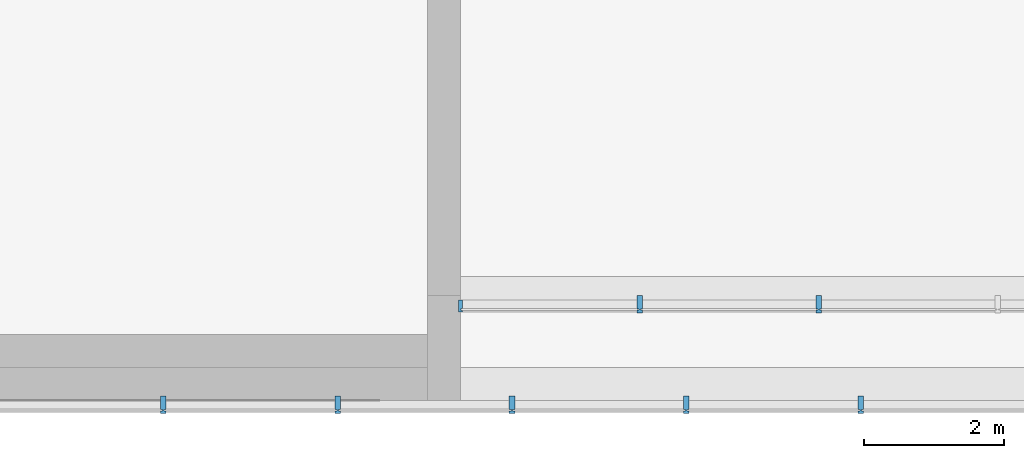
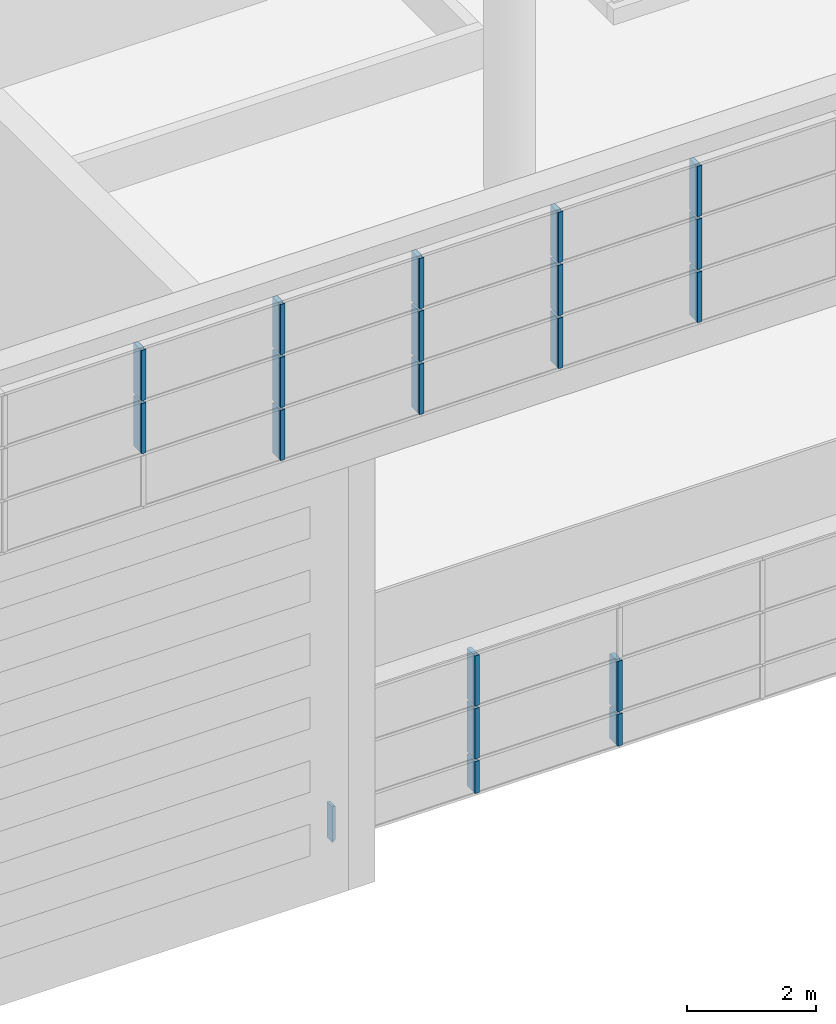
# One storey, part 75 of 105: 20 building element parts, 2 elements without a shape of their own.
"""IFC4 building model written with IfcOpenShell, lengths in millimetres."""

from ifc_helpers import new_model, entity, si_unit, converted_unit, derived_unit, direction, frame, origin_with_axes, place, context, subcontext, project, spatial, triangles, material, element, aggregate, save


model = new_model("IFC4")

# Units and contexts
model_context = context("Model", 3, precision=1e-05, world=origin_with_axes(), true_north=direction((0.0, 1.0)))
body_context = subcontext(model_context, "Body", "Model", "MODEL_VIEW")
ifc_project = project(units=[si_unit("LENGTHUNIT", "METRE", prefix="MILLI"), si_unit("AREAUNIT", "SQUARE_METRE"), si_unit("VOLUMEUNIT", "CUBIC_METRE"), converted_unit("PLANEANGLEUNIT", "DEGREE", entity("IfcLengthMeasure", 0.017453), si_unit("PLANEANGLEUNIT", "RADIAN"), dimensions=[0, 0, 0, 0, 0, 0, 0]), si_unit("SOLIDANGLEUNIT", "STERADIAN"), si_unit("MASSUNIT", "GRAM"), si_unit("TIMEUNIT", "SECOND"), si_unit("THERMODYNAMICTEMPERATUREUNIT", "DEGREE_CELSIUS"), si_unit("LUMINOUSINTENSITYUNIT", "LUMEN"), si_unit("POWERUNIT", "WATT"), derived_unit("THERMALTRANSMITTANCEUNIT", [(si_unit("POWERUNIT", "WATT"), 1), (si_unit("THERMODYNAMICTEMPERATUREUNIT", "KELVIN"), -1), (si_unit("AREAUNIT", "SQUARE_METRE"), -1)])], contexts=[model_context])

# Site, building, storey
site_placement = place(None, origin_with_axes())
site = spatial("IfcSite", under=ifc_project, at=site_placement, Name="Default Site", CompositionType="ELEMENT")
building_placement = place(site_placement, origin_with_axes())
building = spatial("IfcBuilding", under=site, at=building_placement, Name="Default Building", CompositionType="ELEMENT")
storey_placement = place(building_placement, origin_with_axes())
storey = spatial("IfcBuildingStorey", under=building, at=storey_placement, Name="OG - Story", CompositionType="ELEMENT", Elevation=0.0)

# Curtain wall, building element parts
curtain_wall_1_placement = place(storey_placement, origin_with_axes())
curtain_wall_1 = element("IfcCurtainWall", 1, at=curtain_wall_1_placement, inside=storey, Name="Fassade-001", PredefinedType="NOTDEFINED")
ifc_material = material(Name="Blech")
building_element_part_1_placement = place(curtain_wall_1_placement, frame((52496.845873, -51289.262838, 0.0), z_axis=(0.0, 0.0, 1.0), x_axis=(1.0, 0.0, 0.0)))
building_element_part_1 = element("IfcBuildingElementPart", 2, at=building_element_part_1_placement, material=ifc_material, Name="Blech", PredefinedType="NOTDEFINED", context=body_context, shape_type="Tessellation", body=[
    triangles([(-1250.454, 15.0, 650.0), (-1250.454, 133.0, 650.0), (-1270.454, 15.0, 650.0), (-1300.454, 133.0, 650.0), (-1270.454, -14.999, 650.0), (-1300.454, -34.999, 650.0), (-1250.454, -34.999, 650.0), (-1250.454, -14.999, 650.0), (-1270.454, 15.0, 5.0), (-1250.454, 15.0, 25.0), (-1250.454, 133.0, 25.0), (-1300.454, 133.0, -24.999), (-1300.454, -34.999, -24.999), (-1250.454, -34.999, 25.0), (-1250.454, -14.999, 25.0), (-1270.454, -14.999, 5.0)], [[1, 2, 3], [3, 2, 4], [3, 4, 5], [5, 4, 6], [5, 6, 7], [5, 7, 8], [3, 9, 10], [3, 10, 1], [10, 11, 2], [10, 2, 1], [2, 11, 12], [2, 12, 4], [4, 12, 13], [4, 13, 6], [6, 13, 14], [6, 14, 7], [8, 7, 14], [8, 14, 15], [15, 16, 5], [15, 5, 8], [5, 16, 9], [5, 9, 3], [10, 11, 9], [9, 11, 12], [9, 12, 16], [16, 12, 13], [16, 13, 15], [15, 13, 14]], closed=False),
])
building_element_part_2_placement = place(curtain_wall_1_placement, frame((52496.845873, -51289.262838, 0.0), z_axis=(0.0, 0.0, 1.0), x_axis=(1.0, 0.0, 0.0)))
building_element_part_2 = element("IfcBuildingElementPart", 3, at=building_element_part_2_placement, material=ifc_material, Name="Blech", PredefinedType="NOTDEFINED", context=body_context, shape_type="Tessellation", body=[
    triangles([(1315.455, 10.0, 625.0), (1315.455, 200.0, 625.0), (1285.455, 10.0, 625.0), (1265.455, 10.0, 625.0), (1285.455, -9.999, 625.0), (1315.455, -49.999, 625.0), (1315.455, -9.999, 625.0), (1235.455, 200.0, 625.0), (1235.455, 10.0, 625.0), (1265.455, -9.999, 625.0), (1235.455, -9.999, 625.0), (1235.455, -49.999, 625.0), (1285.455, 10.0, 25.0), (1315.455, 10.0, 25.0), (1315.455, 200.0, 25.0), (1235.455, 200.0, 25.0), (1235.455, 10.0, 25.0), (1265.455, 10.0, 25.0), (1265.455, -9.999, 25.0), (1235.455, -9.999, 25.0), (1235.455, -49.999, 25.0), (1315.455, -49.999, 25.0), (1315.455, -9.999, 25.0), (1285.455, -9.999, 25.0)], [[1, 2, 3], [3, 2, 4], [3, 4, 5], [5, 4, 6], [5, 6, 7], [8, 9, 4], [8, 4, 2], [6, 4, 10], [6, 10, 11], [6, 11, 12], [1, 3, 13], [1, 13, 14], [1, 14, 15], [1, 15, 2], [2, 15, 16], [2, 16, 8], [9, 8, 16], [9, 16, 17], [9, 17, 18], [9, 18, 4], [4, 18, 19], [4, 19, 10], [11, 10, 19], [11, 19, 20], [20, 21, 12], [20, 12, 11], [12, 21, 22], [12, 22, 6], [23, 7, 6], [23, 6, 22], [5, 7, 23], [5, 23, 24], [3, 5, 24], [3, 24, 13], [23, 22, 24], [24, 22, 19], [24, 19, 13], [13, 19, 15], [13, 15, 14], [21, 20, 19], [21, 19, 22], [15, 19, 18], [15, 18, 17], [15, 17, 16]], closed=False),
])
building_element_part_3_placement = place(curtain_wall_1_placement, frame((52496.845873, -51289.262838, 0.0), z_axis=(0.0, 0.0, 1.0), x_axis=(1.0, 0.0, 0.0)))
building_element_part_3 = element("IfcBuildingElementPart", 4, at=building_element_part_3_placement, material=ifc_material, Name="Blech", PredefinedType="NOTDEFINED", context=body_context, shape_type="Tessellation", body=[
    triangles([(3866.364, 10.0, 625.0), (3866.364, 200.0, 625.0), (3836.364, 10.0, 625.0), (3816.364, 10.0, 625.0), (3836.364, -9.999, 625.0), (3866.364, -49.999, 625.0), (3866.364, -9.999, 625.0), (3786.364, 200.0, 625.0), (3786.364, 10.0, 625.0), (3816.364, -9.999, 625.0), (3786.364, -9.999, 625.0), (3786.364, -49.999, 625.0), (3836.364, 10.0, 25.0), (3866.364, 10.0, 25.0), (3866.364, 200.0, 25.0), (3786.364, 200.0, 25.0), (3786.364, 10.0, 25.0), (3816.364, 10.0, 25.0), (3816.364, -9.999, 25.0), (3786.364, -9.999, 25.0), (3786.364, -49.999, 25.0), (3866.364, -49.999, 25.0), (3866.364, -9.999, 25.0), (3836.364, -9.999, 25.0)], [[1, 2, 3], [3, 2, 4], [3, 4, 5], [5, 4, 6], [5, 6, 7], [8, 9, 4], [8, 4, 2], [6, 4, 10], [6, 10, 11], [6, 11, 12], [1, 3, 13], [1, 13, 14], [1, 14, 15], [1, 15, 2], [2, 15, 16], [2, 16, 8], [9, 8, 16], [9, 16, 17], [9, 17, 18], [9, 18, 4], [4, 18, 19], [4, 19, 10], [11, 10, 19], [11, 19, 20], [20, 21, 12], [20, 12, 11], [12, 21, 22], [12, 22, 6], [23, 7, 6], [23, 6, 22], [5, 7, 23], [5, 23, 24], [3, 5, 24], [3, 24, 13], [23, 22, 24], [24, 22, 19], [24, 19, 13], [13, 19, 15], [13, 15, 14], [21, 20, 19], [21, 19, 22], [15, 19, 18], [15, 18, 17], [15, 17, 16]], closed=False),
])
building_element_part_4_placement = place(curtain_wall_1_placement, frame((52496.845873, -51289.262838, 0.0), z_axis=(0.0, 0.0, 1.0), x_axis=(1.0, 0.0, 0.0)))
building_element_part_4 = element("IfcBuildingElementPart", 5, at=building_element_part_4_placement, material=ifc_material, Name="Blech", PredefinedType="NOTDEFINED", context=body_context, shape_type="Tessellation", body=[
    triangles([(1315.455, 10.0, 1625.0), (1315.455, 200.0, 1625.0), (1285.455, 10.0, 1625.0), (1265.455, 10.0, 1625.0), (1285.455, -9.999, 1625.0), (1315.455, -49.999, 1625.0), (1315.455, -9.999, 1625.0), (1235.455, 200.0, 1625.0), (1235.455, 10.0, 1625.0), (1265.455, -9.999, 1625.0), (1235.455, -9.999, 1625.0), (1235.455, -49.999, 1625.0), (1285.455, 10.0, 675.0), (1315.455, 10.0, 675.0), (1315.455, 200.0, 675.0), (1235.455, 200.0, 675.0), (1235.455, 10.0, 675.0), (1265.455, 10.0, 675.0), (1265.455, -9.999, 675.0), (1235.455, -9.999, 675.0), (1235.455, -49.999, 675.0), (1315.455, -49.999, 675.0), (1315.455, -9.999, 675.0), (1285.455, -9.999, 675.0)], [[1, 2, 3], [3, 2, 4], [3, 4, 5], [5, 4, 6], [5, 6, 7], [8, 9, 4], [8, 4, 2], [6, 4, 10], [6, 10, 11], [6, 11, 12], [1, 3, 13], [1, 13, 14], [1, 14, 15], [1, 15, 2], [2, 15, 16], [2, 16, 8], [9, 8, 16], [9, 16, 17], [9, 17, 18], [9, 18, 4], [4, 18, 19], [4, 19, 10], [11, 10, 19], [11, 19, 20], [20, 21, 12], [20, 12, 11], [12, 21, 22], [12, 22, 6], [23, 7, 6], [23, 6, 22], [5, 7, 23], [5, 23, 24], [3, 5, 24], [3, 24, 13], [23, 22, 24], [24, 22, 19], [24, 19, 13], [13, 19, 15], [13, 15, 14], [21, 20, 19], [21, 19, 22], [15, 19, 18], [15, 18, 17], [15, 17, 16]], closed=False),
])
building_element_part_5_placement = place(curtain_wall_1_placement, frame((52496.845873, -51289.262838, 0.0), z_axis=(0.0, 0.0, 1.0), x_axis=(1.0, 0.0, 0.0)))
building_element_part_5 = element("IfcBuildingElementPart", 6, at=building_element_part_5_placement, material=ifc_material, Name="Blech", PredefinedType="NOTDEFINED", context=body_context, shape_type="Tessellation", body=[
    triangles([(3866.364, 10.0, 1625.0), (3866.364, 200.0, 1625.0), (3836.364, 10.0, 1625.0), (3816.364, 10.0, 1625.0), (3836.364, -9.999, 1625.0), (3866.364, -49.999, 1625.0), (3866.364, -9.999, 1625.0), (3786.364, 200.0, 1625.0), (3786.364, 10.0, 1625.0), (3816.364, -9.999, 1625.0), (3786.364, -9.999, 1625.0), (3786.364, -49.999, 1625.0), (3836.364, 10.0, 675.0), (3866.364, 10.0, 675.0), (3866.364, 200.0, 675.0), (3786.364, 200.0, 675.0), (3786.364, 10.0, 675.0), (3816.364, 10.0, 675.0), (3816.364, -9.999, 675.0), (3786.364, -9.999, 675.0), (3786.364, -49.999, 675.0), (3866.364, -49.999, 675.0), (3866.364, -9.999, 675.0), (3836.364, -9.999, 675.0)], [[1, 2, 3], [3, 2, 4], [3, 4, 5], [5, 4, 6], [5, 6, 7], [8, 9, 4], [8, 4, 2], [6, 4, 10], [6, 10, 11], [6, 11, 12], [1, 3, 13], [1, 13, 14], [1, 14, 15], [1, 15, 2], [2, 15, 16], [2, 16, 8], [9, 8, 16], [9, 16, 17], [9, 17, 18], [9, 18, 4], [4, 18, 19], [4, 19, 10], [11, 10, 19], [11, 19, 20], [20, 21, 12], [20, 12, 11], [12, 21, 22], [12, 22, 6], [23, 7, 6], [23, 6, 22], [5, 7, 23], [5, 23, 24], [3, 5, 24], [3, 24, 13], [23, 22, 24], [24, 22, 19], [24, 19, 13], [13, 19, 15], [13, 15, 14], [21, 20, 19], [21, 19, 22], [15, 19, 18], [15, 18, 17], [15, 17, 16]], closed=False),
])
building_element_part_6_placement = place(curtain_wall_1_placement, frame((52496.845873, -51289.262838, 0.0), z_axis=(0.0, 0.0, 1.0), x_axis=(1.0, 0.0, 0.0)))
building_element_part_6 = element("IfcBuildingElementPart", 7, at=building_element_part_6_placement, material=ifc_material, Name="Blech", PredefinedType="NOTDEFINED", context=body_context, shape_type="Tessellation", body=[
    triangles([(1315.455, 10.0, 2625.0), (1315.455, 200.0, 2625.0), (1285.455, 10.0, 2625.0), (1265.455, 10.0, 2625.0), (1285.455, -9.999, 2625.0), (1315.455, -49.999, 2625.0), (1315.455, -9.999, 2625.0), (1235.455, 200.0, 2625.0), (1235.455, 10.0, 2625.0), (1265.455, -9.999, 2625.0), (1235.455, -9.999, 2625.0), (1235.455, -49.999, 2625.0), (1285.455, 10.0, 1675.0), (1315.455, 10.0, 1675.0), (1315.455, 200.0, 1675.0), (1235.455, 200.0, 1675.0), (1235.455, 10.0, 1675.0), (1265.455, 10.0, 1675.0), (1265.455, -9.999, 1675.0), (1235.455, -9.999, 1675.0), (1235.455, -49.999, 1675.0), (1315.455, -49.999, 1675.0), (1315.455, -9.999, 1675.0), (1285.455, -9.999, 1675.0)], [[1, 2, 3], [3, 2, 4], [3, 4, 5], [5, 4, 6], [5, 6, 7], [8, 9, 4], [8, 4, 2], [6, 4, 10], [6, 10, 11], [6, 11, 12], [1, 3, 13], [1, 13, 14], [1, 14, 15], [1, 15, 2], [2, 15, 16], [2, 16, 8], [9, 8, 16], [9, 16, 17], [9, 17, 18], [9, 18, 4], [4, 18, 19], [4, 19, 10], [11, 10, 19], [11, 19, 20], [20, 21, 12], [20, 12, 11], [12, 21, 22], [12, 22, 6], [23, 7, 6], [23, 6, 22], [5, 7, 23], [5, 23, 24], [3, 5, 24], [3, 24, 13], [23, 22, 24], [24, 22, 19], [24, 19, 13], [13, 19, 15], [13, 15, 14], [21, 20, 19], [21, 19, 22], [15, 19, 18], [15, 18, 17], [15, 17, 16]], closed=False),
])
aggregate(curtain_wall_1, [building_element_part_1, building_element_part_2, building_element_part_3, building_element_part_4, building_element_part_5, building_element_part_6])

curtain_wall_2_placement = place(storey_placement, origin_with_axes())
curtain_wall_2 = element("IfcCurtainWall", 8, at=curtain_wall_2_placement, inside=storey, Name="Fassade-002", PredefinedType="NOTDEFINED")
building_element_part_7_placement = place(curtain_wall_2_placement, frame((33339.077852, -52722.262838, 8660.317768), z_axis=(0.0, 0.0, 1.0), x_axis=(1.0, 0.0, 0.0)))
building_element_part_7 = element("IfcBuildingElementPart", 9, at=building_element_part_7_placement, material=ifc_material, Name="Blech", PredefinedType="NOTDEFINED", context=body_context, shape_type="Tessellation", body=[
    triangles([(18655.697, 10.0, 975.0), (18655.697, 200.0, 975.0), (18625.697, 10.0, 975.0), (18605.697, 10.0, 975.0), (18625.697, -9.999, 975.0), (18655.697, -49.999, 975.0), (18655.697, -9.999, 975.0), (18575.697, 200.0, 975.0), (18575.697, 10.0, 975.0), (18605.697, -9.999, 975.0), (18575.697, -9.999, 975.0), (18575.697, -49.999, 975.0), (18625.697, 10.0, 25.0), (18655.697, 10.0, 25.0), (18655.697, 200.0, 25.0), (18575.697, 200.0, 25.0), (18575.697, 10.0, 25.0), (18605.697, 10.0, 25.0), (18605.697, -9.999, 25.0), (18575.697, -9.999, 25.0), (18575.697, -49.999, 25.0), (18655.697, -49.999, 25.0), (18655.697, -9.999, 25.0), (18625.697, -9.999, 25.0)], [[1, 2, 3], [3, 2, 4], [3, 4, 5], [5, 4, 6], [5, 6, 7], [8, 9, 4], [8, 4, 2], [6, 4, 10], [6, 10, 11], [6, 11, 12], [1, 3, 13], [1, 13, 14], [1, 14, 15], [1, 15, 2], [2, 15, 16], [2, 16, 8], [9, 8, 16], [9, 16, 17], [9, 17, 18], [9, 18, 4], [4, 18, 19], [4, 19, 10], [11, 10, 19], [11, 19, 20], [20, 21, 12], [20, 12, 11], [12, 21, 22], [12, 22, 6], [23, 7, 6], [23, 6, 22], [5, 7, 23], [5, 23, 24], [3, 5, 24], [3, 24, 13], [23, 22, 24], [24, 22, 19], [24, 19, 13], [13, 19, 15], [13, 15, 14], [21, 20, 19], [21, 19, 22], [15, 19, 18], [15, 18, 17], [15, 17, 16]], closed=False),
])
building_element_part_8_placement = place(curtain_wall_2_placement, frame((33339.077852, -52722.262838, 8660.317768), z_axis=(0.0, 0.0, 1.0), x_axis=(1.0, 0.0, 0.0)))
building_element_part_8 = element("IfcBuildingElementPart", 10, at=building_element_part_8_placement, material=ifc_material, Name="Blech", PredefinedType="NOTDEFINED", context=body_context, shape_type="Tessellation", body=[
    triangles([(16173.604, 10.0, 975.0), (16173.604, 200.0, 975.0), (16143.604, 10.0, 975.0), (16123.604, 10.0, 975.0), (16143.604, -9.999, 975.0), (16173.604, -49.999, 975.0), (16173.604, -9.999, 975.0), (16093.604, 200.0, 975.0), (16093.604, 10.0, 975.0), (16123.604, -9.999, 975.0), (16093.604, -9.999, 975.0), (16093.604, -49.999, 975.0), (16143.604, 10.0, 25.0), (16173.604, 10.0, 25.0), (16173.604, 200.0, 25.0), (16093.604, 200.0, 25.0), (16093.604, 10.0, 25.0), (16123.604, 10.0, 25.0), (16123.604, -9.999, 25.0), (16093.604, -9.999, 25.0), (16093.604, -49.999, 25.0), (16173.604, -49.999, 25.0), (16173.604, -9.999, 25.0), (16143.604, -9.999, 25.0)], [[1, 2, 3], [3, 2, 4], [3, 4, 5], [5, 4, 6], [5, 6, 7], [8, 9, 4], [8, 4, 2], [6, 4, 10], [6, 10, 11], [6, 11, 12], [1, 3, 13], [1, 13, 14], [1, 14, 15], [1, 15, 2], [2, 15, 16], [2, 16, 8], [9, 8, 16], [9, 16, 17], [9, 17, 18], [9, 18, 4], [4, 18, 19], [4, 19, 10], [11, 10, 19], [11, 19, 20], [20, 21, 12], [20, 12, 11], [12, 21, 22], [12, 22, 6], [23, 7, 6], [23, 6, 22], [5, 7, 23], [5, 23, 24], [3, 5, 24], [3, 24, 13], [23, 22, 24], [24, 22, 19], [24, 19, 13], [13, 19, 15], [13, 15, 14], [21, 20, 19], [21, 19, 22], [15, 19, 18], [15, 18, 17], [15, 17, 16]], closed=False),
])
building_element_part_9_placement = place(curtain_wall_2_placement, frame((33339.077852, -52722.262838, 8660.317768), z_axis=(0.0, 0.0, 1.0), x_axis=(1.0, 0.0, 0.0)))
building_element_part_9 = element("IfcBuildingElementPart", 11, at=building_element_part_9_placement, material=ifc_material, Name="Blech", PredefinedType="NOTDEFINED", context=body_context, shape_type="Tessellation", body=[
    triangles([(13691.511, 10.0, 1975.0), (13691.511, 200.0, 1975.0), (13661.511, 10.0, 1975.0), (13641.511, 10.0, 1975.0), (13661.511, -9.999, 1975.0), (13691.511, -49.999, 1975.0), (13691.511, -9.999, 1975.0), (13611.511, 200.0, 1975.0), (13611.511, 10.0, 1975.0), (13641.511, -9.999, 1975.0), (13611.511, -9.999, 1975.0), (13611.511, -49.999, 1975.0), (13661.511, 10.0, 1025.0), (13691.511, 10.0, 1025.0), (13691.511, 200.0, 1025.0), (13611.511, 200.0, 1025.0), (13611.511, 10.0, 1025.0), (13641.511, 10.0, 1025.0), (13641.511, -9.999, 1025.0), (13611.511, -9.999, 1025.0), (13611.511, -49.999, 1025.0), (13691.511, -49.999, 1025.0), (13691.511, -9.999, 1025.0), (13661.511, -9.999, 1025.0)], [[1, 2, 3], [3, 2, 4], [3, 4, 5], [5, 4, 6], [5, 6, 7], [8, 9, 4], [8, 4, 2], [6, 4, 10], [6, 10, 11], [6, 11, 12], [1, 3, 13], [1, 13, 14], [1, 14, 15], [1, 15, 2], [2, 15, 16], [2, 16, 8], [9, 8, 16], [9, 16, 17], [9, 17, 18], [9, 18, 4], [4, 18, 19], [4, 19, 10], [11, 10, 19], [11, 19, 20], [20, 21, 12], [20, 12, 11], [12, 21, 22], [12, 22, 6], [23, 7, 6], [23, 6, 22], [5, 7, 23], [5, 23, 24], [3, 5, 24], [3, 24, 13], [23, 22, 24], [24, 22, 19], [24, 19, 13], [13, 19, 15], [13, 15, 14], [21, 20, 19], [21, 19, 22], [15, 19, 18], [15, 18, 17], [15, 17, 16]], closed=False),
])
building_element_part_10_placement = place(curtain_wall_2_placement, frame((33339.077852, -52722.262838, 8660.317768), z_axis=(0.0, 0.0, 1.0), x_axis=(1.0, 0.0, 0.0)))
building_element_part_10 = element("IfcBuildingElementPart", 12, at=building_element_part_10_placement, material=ifc_material, Name="Blech", PredefinedType="NOTDEFINED", context=body_context, shape_type="Tessellation", body=[
    triangles([(18655.697, 10.0, 1975.0), (18655.697, 200.0, 1975.0), (18625.697, 10.0, 1975.0), (18605.697, 10.0, 1975.0), (18625.697, -9.999, 1975.0), (18655.697, -49.999, 1975.0), (18655.697, -9.999, 1975.0), (18575.697, 200.0, 1975.0), (18575.697, 10.0, 1975.0), (18605.697, -9.999, 1975.0), (18575.697, -9.999, 1975.0), (18575.697, -49.999, 1975.0), (18625.697, 10.0, 1025.0), (18655.697, 10.0, 1025.0), (18655.697, 200.0, 1025.0), (18575.697, 200.0, 1025.0), (18575.697, 10.0, 1025.0), (18605.697, 10.0, 1025.0), (18605.697, -9.999, 1025.0), (18575.697, -9.999, 1025.0), (18575.697, -49.999, 1025.0), (18655.697, -49.999, 1025.0), (18655.697, -9.999, 1025.0), (18625.697, -9.999, 1025.0)], [[1, 2, 3], [3, 2, 4], [3, 4, 5], [5, 4, 6], [5, 6, 7], [8, 9, 4], [8, 4, 2], [6, 4, 10], [6, 10, 11], [6, 11, 12], [1, 3, 13], [1, 13, 14], [1, 14, 15], [1, 15, 2], [2, 15, 16], [2, 16, 8], [9, 8, 16], [9, 16, 17], [9, 17, 18], [9, 18, 4], [4, 18, 19], [4, 19, 10], [11, 10, 19], [11, 19, 20], [20, 21, 12], [20, 12, 11], [12, 21, 22], [12, 22, 6], [23, 7, 6], [23, 6, 22], [5, 7, 23], [5, 23, 24], [3, 5, 24], [3, 24, 13], [23, 22, 24], [24, 22, 19], [24, 19, 13], [13, 19, 15], [13, 15, 14], [21, 20, 19], [21, 19, 22], [15, 19, 18], [15, 18, 17], [15, 17, 16]], closed=False),
])
building_element_part_11_placement = place(curtain_wall_2_placement, frame((33339.077852, -52722.262838, 8660.317768), z_axis=(0.0, 0.0, 1.0), x_axis=(1.0, 0.0, 0.0)))
building_element_part_11 = element("IfcBuildingElementPart", 13, at=building_element_part_11_placement, material=ifc_material, Name="Blech", PredefinedType="NOTDEFINED", context=body_context, shape_type="Tessellation", body=[
    triangles([(16173.604, 10.0, 1975.0), (16173.604, 200.0, 1975.0), (16143.604, 10.0, 1975.0), (16123.604, 10.0, 1975.0), (16143.604, -9.999, 1975.0), (16173.604, -49.999, 1975.0), (16173.604, -9.999, 1975.0), (16093.604, 200.0, 1975.0), (16093.604, 10.0, 1975.0), (16123.604, -9.999, 1975.0), (16093.604, -9.999, 1975.0), (16093.604, -49.999, 1975.0), (16143.604, 10.0, 1025.0), (16173.604, 10.0, 1025.0), (16173.604, 200.0, 1025.0), (16093.604, 200.0, 1025.0), (16093.604, 10.0, 1025.0), (16123.604, 10.0, 1025.0), (16123.604, -9.999, 1025.0), (16093.604, -9.999, 1025.0), (16093.604, -49.999, 1025.0), (16173.604, -49.999, 1025.0), (16173.604, -9.999, 1025.0), (16143.604, -9.999, 1025.0)], [[1, 2, 3], [3, 2, 4], [3, 4, 5], [5, 4, 6], [5, 6, 7], [8, 9, 4], [8, 4, 2], [6, 4, 10], [6, 10, 11], [6, 11, 12], [1, 3, 13], [1, 13, 14], [1, 14, 15], [1, 15, 2], [2, 15, 16], [2, 16, 8], [9, 8, 16], [9, 16, 17], [9, 17, 18], [9, 18, 4], [4, 18, 19], [4, 19, 10], [11, 10, 19], [11, 19, 20], [20, 21, 12], [20, 12, 11], [12, 21, 22], [12, 22, 6], [23, 7, 6], [23, 6, 22], [5, 7, 23], [5, 23, 24], [3, 5, 24], [3, 24, 13], [23, 22, 24], [24, 22, 19], [24, 19, 13], [13, 19, 15], [13, 15, 14], [21, 20, 19], [21, 19, 22], [15, 19, 18], [15, 18, 17], [15, 17, 16]], closed=False),
])
building_element_part_12_placement = place(curtain_wall_2_placement, frame((33339.077852, -52722.262838, 8660.317768), z_axis=(0.0, 0.0, 1.0), x_axis=(1.0, 0.0, 0.0)))
building_element_part_12 = element("IfcBuildingElementPart", 14, at=building_element_part_12_placement, material=ifc_material, Name="Blech", PredefinedType="NOTDEFINED", context=body_context, shape_type="Tessellation", body=[
    triangles([(13691.511, 10.0, 2975.0), (13691.511, 200.0, 2975.0), (13661.511, 10.0, 2975.0), (13641.511, 10.0, 2975.0), (13661.511, -9.999, 2975.0), (13691.511, -49.999, 2975.0), (13691.511, -9.999, 2975.0), (13611.511, 200.0, 2975.0), (13611.511, 10.0, 2975.0), (13641.511, -9.999, 2975.0), (13611.511, -9.999, 2975.0), (13611.511, -49.999, 2975.0), (13661.511, 10.0, 2025.0), (13691.511, 10.0, 2025.0), (13691.511, 200.0, 2025.0), (13611.511, 200.0, 2025.0), (13611.511, 10.0, 2025.0), (13641.511, 10.0, 2025.0), (13641.511, -9.999, 2025.0), (13611.511, -9.999, 2025.0), (13611.511, -49.999, 2025.0), (13691.511, -49.999, 2025.0), (13691.511, -9.999, 2025.0), (13661.511, -9.999, 2025.0)], [[1, 2, 3], [3, 2, 4], [3, 4, 5], [5, 4, 6], [5, 6, 7], [8, 9, 4], [8, 4, 2], [6, 4, 10], [6, 10, 11], [6, 11, 12], [1, 3, 13], [1, 13, 14], [1, 14, 15], [1, 15, 2], [2, 15, 16], [2, 16, 8], [9, 8, 16], [9, 16, 17], [9, 17, 18], [9, 18, 4], [4, 18, 19], [4, 19, 10], [11, 10, 19], [11, 19, 20], [20, 21, 12], [20, 12, 11], [12, 21, 22], [12, 22, 6], [23, 7, 6], [23, 6, 22], [5, 7, 23], [5, 23, 24], [3, 5, 24], [3, 24, 13], [23, 22, 24], [24, 22, 19], [24, 19, 13], [13, 19, 15], [13, 15, 14], [21, 20, 19], [21, 19, 22], [15, 19, 18], [15, 18, 17], [15, 17, 16]], closed=False),
])
building_element_part_13_placement = place(curtain_wall_2_placement, frame((33339.077852, -52722.262838, 8660.317768), z_axis=(0.0, 0.0, 1.0), x_axis=(1.0, 0.0, 0.0)))
building_element_part_13 = element("IfcBuildingElementPart", 15, at=building_element_part_13_placement, material=ifc_material, Name="Blech", PredefinedType="NOTDEFINED", context=body_context, shape_type="Tessellation", body=[
    triangles([(18655.697, 10.0, 2975.0), (18655.697, 200.0, 2975.0), (18625.697, 10.0, 2975.0), (18605.697, 10.0, 2975.0), (18625.697, -9.999, 2975.0), (18655.697, -49.999, 2975.0), (18655.697, -9.999, 2975.0), (18575.697, 200.0, 2975.0), (18575.697, 10.0, 2975.0), (18605.697, -9.999, 2975.0), (18575.697, -9.999, 2975.0), (18575.697, -49.999, 2975.0), (18625.697, 10.0, 2025.0), (18655.697, 10.0, 2025.0), (18655.697, 200.0, 2025.0), (18575.697, 200.0, 2025.0), (18575.697, 10.0, 2025.0), (18605.697, 10.0, 2025.0), (18605.697, -9.999, 2025.0), (18575.697, -9.999, 2025.0), (18575.697, -49.999, 2025.0), (18655.697, -49.999, 2025.0), (18655.697, -9.999, 2025.0), (18625.697, -9.999, 2025.0)], [[1, 2, 3], [3, 2, 4], [3, 4, 5], [5, 4, 6], [5, 6, 7], [8, 9, 4], [8, 4, 2], [6, 4, 10], [6, 10, 11], [6, 11, 12], [1, 3, 13], [1, 13, 14], [1, 14, 15], [1, 15, 2], [2, 15, 16], [2, 16, 8], [9, 8, 16], [9, 16, 17], [9, 17, 18], [9, 18, 4], [4, 18, 19], [4, 19, 10], [11, 10, 19], [11, 19, 20], [20, 21, 12], [20, 12, 11], [12, 21, 22], [12, 22, 6], [23, 7, 6], [23, 6, 22], [5, 7, 23], [5, 23, 24], [3, 5, 24], [3, 24, 13], [23, 22, 24], [24, 22, 19], [24, 19, 13], [13, 19, 15], [13, 15, 14], [21, 20, 19], [21, 19, 22], [15, 19, 18], [15, 18, 17], [15, 17, 16]], closed=False),
])
building_element_part_14_placement = place(curtain_wall_2_placement, frame((33339.077852, -52722.262838, 8660.317768), z_axis=(0.0, 0.0, 1.0), x_axis=(1.0, 0.0, 0.0)))
building_element_part_14 = element("IfcBuildingElementPart", 16, at=building_element_part_14_placement, material=ifc_material, Name="Blech", PredefinedType="NOTDEFINED", context=body_context, shape_type="Tessellation", body=[
    triangles([(16173.604, 10.0, 2975.0), (16173.604, 200.0, 2975.0), (16143.604, 10.0, 2975.0), (16123.604, 10.0, 2975.0), (16143.604, -9.999, 2975.0), (16173.604, -49.999, 2975.0), (16173.604, -9.999, 2975.0), (16093.604, 200.0, 2975.0), (16093.604, 10.0, 2975.0), (16123.604, -9.999, 2975.0), (16093.604, -9.999, 2975.0), (16093.604, -49.999, 2975.0), (16143.604, 10.0, 2025.0), (16173.604, 10.0, 2025.0), (16173.604, 200.0, 2025.0), (16093.604, 200.0, 2025.0), (16093.604, 10.0, 2025.0), (16123.604, 10.0, 2025.0), (16123.604, -9.999, 2025.0), (16093.604, -9.999, 2025.0), (16093.604, -49.999, 2025.0), (16173.604, -49.999, 2025.0), (16173.604, -9.999, 2025.0), (16143.604, -9.999, 2025.0)], [[1, 2, 3], [3, 2, 4], [3, 4, 5], [5, 4, 6], [5, 6, 7], [8, 9, 4], [8, 4, 2], [6, 4, 10], [6, 10, 11], [6, 11, 12], [1, 3, 13], [1, 13, 14], [1, 14, 15], [1, 15, 2], [2, 15, 16], [2, 16, 8], [9, 8, 16], [9, 16, 17], [9, 17, 18], [9, 18, 4], [4, 18, 19], [4, 19, 10], [11, 10, 19], [11, 19, 20], [20, 21, 12], [20, 12, 11], [12, 21, 22], [12, 22, 6], [23, 7, 6], [23, 6, 22], [5, 7, 23], [5, 23, 24], [3, 5, 24], [3, 24, 13], [23, 22, 24], [24, 22, 19], [24, 19, 13], [13, 19, 15], [13, 15, 14], [21, 20, 19], [21, 19, 22], [15, 19, 18], [15, 18, 17], [15, 17, 16]], closed=False),
])
building_element_part_15_placement = place(curtain_wall_2_placement, frame((33339.077852, -52722.262838, 8660.317768), z_axis=(0.0, 0.0, 1.0), x_axis=(1.0, 0.0, 0.0)))
building_element_part_15 = element("IfcBuildingElementPart", 17, at=building_element_part_15_placement, material=ifc_material, Name="Blech", PredefinedType="NOTDEFINED", context=body_context, shape_type="Tessellation", body=[
    triangles([(21137.789, 10.0, 975.0), (21137.789, 200.0, 975.0), (21107.789, 10.0, 975.0), (21087.789, 10.0, 975.0), (21107.789, -9.999, 975.0), (21137.789, -49.999, 975.0), (21137.789, -9.999, 975.0), (21057.789, 200.0, 975.0), (21057.789, 10.0, 975.0), (21087.789, -9.999, 975.0), (21057.789, -9.999, 975.0), (21057.789, -49.999, 975.0), (21107.789, 10.0, 25.0), (21137.789, 10.0, 25.0), (21137.789, 200.0, 25.0), (21057.789, 200.0, 25.0), (21057.789, 10.0, 25.0), (21087.789, 10.0, 25.0), (21087.789, -9.999, 25.0), (21057.789, -9.999, 25.0), (21057.789, -49.999, 25.0), (21137.789, -49.999, 25.0), (21137.789, -9.999, 25.0), (21107.789, -9.999, 25.0)], [[1, 2, 3], [3, 2, 4], [3, 4, 5], [5, 4, 6], [5, 6, 7], [8, 9, 4], [8, 4, 2], [6, 4, 10], [6, 10, 11], [6, 11, 12], [1, 3, 13], [1, 13, 14], [1, 14, 15], [1, 15, 2], [2, 15, 16], [2, 16, 8], [9, 8, 16], [9, 16, 17], [9, 17, 18], [9, 18, 4], [4, 18, 19], [4, 19, 10], [11, 10, 19], [11, 19, 20], [20, 21, 12], [20, 12, 11], [12, 21, 22], [12, 22, 6], [23, 7, 6], [23, 6, 22], [5, 7, 23], [5, 23, 24], [3, 5, 24], [3, 24, 13], [23, 22, 24], [24, 22, 19], [24, 19, 13], [13, 19, 15], [13, 15, 14], [21, 20, 19], [21, 19, 22], [15, 19, 18], [15, 18, 17], [15, 17, 16]], closed=False),
])
building_element_part_16_placement = place(curtain_wall_2_placement, frame((33339.077852, -52722.262838, 8660.317768), z_axis=(0.0, 0.0, 1.0), x_axis=(1.0, 0.0, 0.0)))
building_element_part_16 = element("IfcBuildingElementPart", 18, at=building_element_part_16_placement, material=ifc_material, Name="Blech", PredefinedType="NOTDEFINED", context=body_context, shape_type="Tessellation", body=[
    triangles([(21137.789, 10.0, 1975.0), (21137.789, 200.0, 1975.0), (21107.789, 10.0, 1975.0), (21087.789, 10.0, 1975.0), (21107.789, -9.999, 1975.0), (21137.789, -49.999, 1975.0), (21137.789, -9.999, 1975.0), (21057.789, 200.0, 1975.0), (21057.789, 10.0, 1975.0), (21087.789, -9.999, 1975.0), (21057.789, -9.999, 1975.0), (21057.789, -49.999, 1975.0), (21107.789, 10.0, 1025.0), (21137.789, 10.0, 1025.0), (21137.789, 200.0, 1025.0), (21057.789, 200.0, 1025.0), (21057.789, 10.0, 1025.0), (21087.789, 10.0, 1025.0), (21087.789, -9.999, 1025.0), (21057.789, -9.999, 1025.0), (21057.789, -49.999, 1025.0), (21137.789, -49.999, 1025.0), (21137.789, -9.999, 1025.0), (21107.789, -9.999, 1025.0)], [[1, 2, 3], [3, 2, 4], [3, 4, 5], [5, 4, 6], [5, 6, 7], [8, 9, 4], [8, 4, 2], [6, 4, 10], [6, 10, 11], [6, 11, 12], [1, 3, 13], [1, 13, 14], [1, 14, 15], [1, 15, 2], [2, 15, 16], [2, 16, 8], [9, 8, 16], [9, 16, 17], [9, 17, 18], [9, 18, 4], [4, 18, 19], [4, 19, 10], [11, 10, 19], [11, 19, 20], [20, 21, 12], [20, 12, 11], [12, 21, 22], [12, 22, 6], [23, 7, 6], [23, 6, 22], [5, 7, 23], [5, 23, 24], [3, 5, 24], [3, 24, 13], [23, 22, 24], [24, 22, 19], [24, 19, 13], [13, 19, 15], [13, 15, 14], [21, 20, 19], [21, 19, 22], [15, 19, 18], [15, 18, 17], [15, 17, 16]], closed=False),
])
building_element_part_17_placement = place(curtain_wall_2_placement, frame((33339.077852, -52722.262838, 8660.317768), z_axis=(0.0, 0.0, 1.0), x_axis=(1.0, 0.0, 0.0)))
building_element_part_17 = element("IfcBuildingElementPart", 19, at=building_element_part_17_placement, material=ifc_material, Name="Blech", PredefinedType="NOTDEFINED", context=body_context, shape_type="Tessellation", body=[
    triangles([(21137.789, 10.0, 2975.0), (21137.789, 200.0, 2975.0), (21107.789, 10.0, 2975.0), (21087.789, 10.0, 2975.0), (21107.789, -9.999, 2975.0), (21137.789, -49.999, 2975.0), (21137.789, -9.999, 2975.0), (21057.789, 200.0, 2975.0), (21057.789, 10.0, 2975.0), (21087.789, -9.999, 2975.0), (21057.789, -9.999, 2975.0), (21057.789, -49.999, 2975.0), (21107.789, 10.0, 2025.0), (21137.789, 10.0, 2025.0), (21137.789, 200.0, 2025.0), (21057.789, 200.0, 2025.0), (21057.789, 10.0, 2025.0), (21087.789, 10.0, 2025.0), (21087.789, -9.999, 2025.0), (21057.789, -9.999, 2025.0), (21057.789, -49.999, 2025.0), (21137.789, -49.999, 2025.0), (21137.789, -9.999, 2025.0), (21107.789, -9.999, 2025.0)], [[1, 2, 3], [3, 2, 4], [3, 4, 5], [5, 4, 6], [5, 6, 7], [8, 9, 4], [8, 4, 2], [6, 4, 10], [6, 10, 11], [6, 11, 12], [1, 3, 13], [1, 13, 14], [1, 14, 15], [1, 15, 2], [2, 15, 16], [2, 16, 8], [9, 8, 16], [9, 16, 17], [9, 17, 18], [9, 18, 4], [4, 18, 19], [4, 19, 10], [11, 10, 19], [11, 19, 20], [20, 21, 12], [20, 12, 11], [12, 21, 22], [12, 22, 6], [23, 7, 6], [23, 6, 22], [5, 7, 23], [5, 23, 24], [3, 5, 24], [3, 24, 13], [23, 22, 24], [24, 22, 19], [24, 19, 13], [13, 19, 15], [13, 15, 14], [21, 20, 19], [21, 19, 22], [15, 19, 18], [15, 18, 17], [15, 17, 16]], closed=False),
])
building_element_part_18_placement = place(curtain_wall_2_placement, frame((33339.077852, -52722.262838, 8660.317768), z_axis=(0.0, 0.0, 1.0), x_axis=(1.0, 0.0, 0.0)))
building_element_part_18 = element("IfcBuildingElementPart", 20, at=building_element_part_18_placement, material=ifc_material, Name="Blech", PredefinedType="NOTDEFINED", context=body_context, shape_type="Tessellation", body=[
    triangles([(23619.882, 10.0, 975.0), (23619.882, 200.0, 975.0), (23589.882, 10.0, 975.0), (23569.882, 10.0, 975.0), (23589.882, -9.999, 975.0), (23619.882, -49.999, 975.0), (23619.882, -9.999, 975.0), (23539.882, 200.0, 975.0), (23539.882, 10.0, 975.0), (23569.882, -9.999, 975.0), (23539.882, -9.999, 975.0), (23539.882, -49.999, 975.0), (23589.882, 10.0, 25.0), (23619.882, 10.0, 25.0), (23619.882, 200.0, 25.0), (23539.882, 200.0, 25.0), (23539.882, 10.0, 25.0), (23569.882, 10.0, 25.0), (23569.882, -9.999, 25.0), (23539.882, -9.999, 25.0), (23539.882, -49.999, 25.0), (23619.882, -49.999, 25.0), (23619.882, -9.999, 25.0), (23589.882, -9.999, 25.0)], [[1, 2, 3], [3, 2, 4], [3, 4, 5], [5, 4, 6], [5, 6, 7], [8, 9, 4], [8, 4, 2], [6, 4, 10], [6, 10, 11], [6, 11, 12], [1, 3, 13], [1, 13, 14], [1, 14, 15], [1, 15, 2], [2, 15, 16], [2, 16, 8], [9, 8, 16], [9, 16, 17], [9, 17, 18], [9, 18, 4], [4, 18, 19], [4, 19, 10], [11, 10, 19], [11, 19, 20], [20, 21, 12], [20, 12, 11], [12, 21, 22], [12, 22, 6], [23, 7, 6], [23, 6, 22], [5, 7, 23], [5, 23, 24], [3, 5, 24], [3, 24, 13], [23, 22, 24], [24, 22, 19], [24, 19, 13], [13, 19, 15], [13, 15, 14], [21, 20, 19], [21, 19, 22], [15, 19, 18], [15, 18, 17], [15, 17, 16]], closed=False),
])
building_element_part_19_placement = place(curtain_wall_2_placement, frame((33339.077852, -52722.262838, 8660.317768), z_axis=(0.0, 0.0, 1.0), x_axis=(1.0, 0.0, 0.0)))
building_element_part_19 = element("IfcBuildingElementPart", 21, at=building_element_part_19_placement, material=ifc_material, Name="Blech", PredefinedType="NOTDEFINED", context=body_context, shape_type="Tessellation", body=[
    triangles([(23619.882, 10.0, 1975.0), (23619.882, 200.0, 1975.0), (23589.882, 10.0, 1975.0), (23569.882, 10.0, 1975.0), (23589.882, -9.999, 1975.0), (23619.882, -49.999, 1975.0), (23619.882, -9.999, 1975.0), (23539.882, 200.0, 1975.0), (23539.882, 10.0, 1975.0), (23569.882, -9.999, 1975.0), (23539.882, -9.999, 1975.0), (23539.882, -49.999, 1975.0), (23589.882, 10.0, 1025.0), (23619.882, 10.0, 1025.0), (23619.882, 200.0, 1025.0), (23539.882, 200.0, 1025.0), (23539.882, 10.0, 1025.0), (23569.882, 10.0, 1025.0), (23569.882, -9.999, 1025.0), (23539.882, -9.999, 1025.0), (23539.882, -49.999, 1025.0), (23619.882, -49.999, 1025.0), (23619.882, -9.999, 1025.0), (23589.882, -9.999, 1025.0)], [[1, 2, 3], [3, 2, 4], [3, 4, 5], [5, 4, 6], [5, 6, 7], [8, 9, 4], [8, 4, 2], [6, 4, 10], [6, 10, 11], [6, 11, 12], [1, 3, 13], [1, 13, 14], [1, 14, 15], [1, 15, 2], [2, 15, 16], [2, 16, 8], [9, 8, 16], [9, 16, 17], [9, 17, 18], [9, 18, 4], [4, 18, 19], [4, 19, 10], [11, 10, 19], [11, 19, 20], [20, 21, 12], [20, 12, 11], [12, 21, 22], [12, 22, 6], [23, 7, 6], [23, 6, 22], [5, 7, 23], [5, 23, 24], [3, 5, 24], [3, 24, 13], [23, 22, 24], [24, 22, 19], [24, 19, 13], [13, 19, 15], [13, 15, 14], [21, 20, 19], [21, 19, 22], [15, 19, 18], [15, 18, 17], [15, 17, 16]], closed=False),
])
building_element_part_20_placement = place(curtain_wall_2_placement, frame((33339.077852, -52722.262838, 8660.317768), z_axis=(0.0, 0.0, 1.0), x_axis=(1.0, 0.0, 0.0)))
building_element_part_20 = element("IfcBuildingElementPart", 22, at=building_element_part_20_placement, material=ifc_material, Name="Blech", PredefinedType="NOTDEFINED", context=body_context, shape_type="Tessellation", body=[
    triangles([(23619.882, 10.0, 2975.0), (23619.882, 200.0, 2975.0), (23589.882, 10.0, 2975.0), (23569.882, 10.0, 2975.0), (23589.882, -9.999, 2975.0), (23619.882, -49.999, 2975.0), (23619.882, -9.999, 2975.0), (23539.882, 200.0, 2975.0), (23539.882, 10.0, 2975.0), (23569.882, -9.999, 2975.0), (23539.882, -9.999, 2975.0), (23539.882, -49.999, 2975.0), (23589.882, 10.0, 2025.0), (23619.882, 10.0, 2025.0), (23619.882, 200.0, 2025.0), (23539.882, 200.0, 2025.0), (23539.882, 10.0, 2025.0), (23569.882, 10.0, 2025.0), (23569.882, -9.999, 2025.0), (23539.882, -9.999, 2025.0), (23539.882, -49.999, 2025.0), (23619.882, -49.999, 2025.0), (23619.882, -9.999, 2025.0), (23589.882, -9.999, 2025.0)], [[1, 2, 3], [3, 2, 4], [3, 4, 5], [5, 4, 6], [5, 6, 7], [8, 9, 4], [8, 4, 2], [6, 4, 10], [6, 10, 11], [6, 11, 12], [1, 3, 13], [1, 13, 14], [1, 14, 15], [1, 15, 2], [2, 15, 16], [2, 16, 8], [9, 8, 16], [9, 16, 17], [9, 17, 18], [9, 18, 4], [4, 18, 19], [4, 19, 10], [11, 10, 19], [11, 19, 20], [20, 21, 12], [20, 12, 11], [12, 21, 22], [12, 22, 6], [23, 7, 6], [23, 6, 22], [5, 7, 23], [5, 23, 24], [3, 5, 24], [3, 24, 13], [23, 22, 24], [24, 22, 19], [24, 19, 13], [13, 19, 15], [13, 15, 14], [21, 20, 19], [21, 19, 22], [15, 19, 18], [15, 18, 17], [15, 17, 16]], closed=False),
])
aggregate(curtain_wall_2, [building_element_part_7, building_element_part_8, building_element_part_9, building_element_part_10, building_element_part_11, building_element_part_12, building_element_part_13, building_element_part_14, building_element_part_15, building_element_part_16, building_element_part_17, building_element_part_18, building_element_part_19, building_element_part_20])

save(model, "model.ifc")
